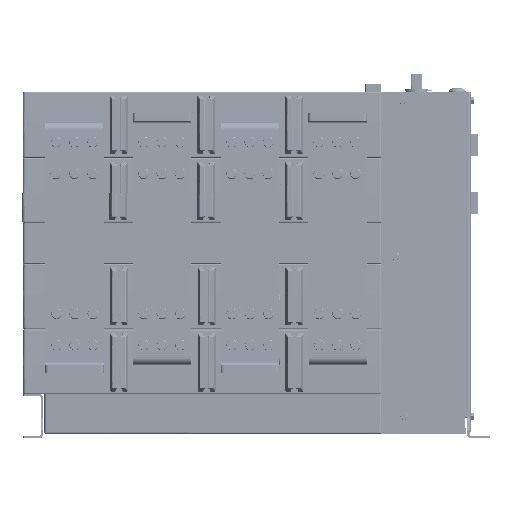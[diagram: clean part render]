
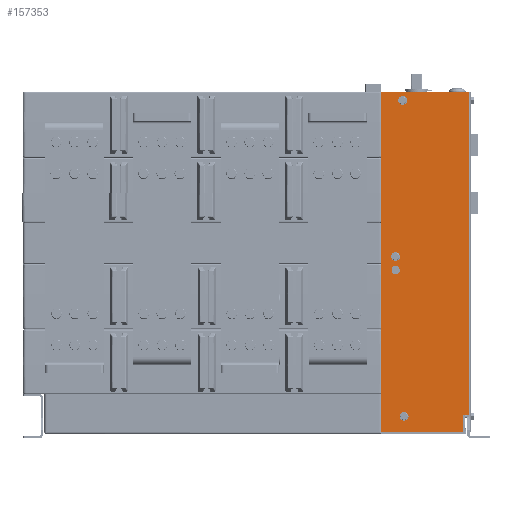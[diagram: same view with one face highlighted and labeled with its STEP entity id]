
A CAD part, left-side view. The second image highlights one B-rep face of the part: STEP entity #157353.
In plain terms, the highlighted planar face has unit normal (-1, 0, 0) as drawn and (1, 0, 0) by its records, which use the part's own axes.
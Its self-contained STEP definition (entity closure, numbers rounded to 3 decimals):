
#155897=DIRECTION('',(0.,0.,-1.));
#155898=VECTOR('',#155897,441.159);
#155899=CARTESIAN_POINT('',(101.,2.,296.659));
#155900=LINE('',#155899,#155898);
#155922=DIRECTION('',(0.,0.,1.));
#155923=VECTOR('',#155922,24.);
#155924=CARTESIAN_POINT('',(101.,10.,296.659));
#155925=LINE('',#155924,#155923);
#155926=DIRECTION('',(0.,-1.,0.));
#155927=VECTOR('',#155926,120.);
#155928=CARTESIAN_POINT('',(101.,122.,-144.5));
#155929=LINE('',#155928,#155927);
#155930=CARTESIAN_POINT('',(101.,93.,-133.5));
#155931=DIRECTION('',(1.,0.,0.));
#155932=DIRECTION('',(0.,0.,-1.));
#155933=AXIS2_PLACEMENT_3D('',#155930,#155931,#155932);
#155935=CARTESIAN_POINT('',(101.,93.,-133.5));
#155936=DIRECTION('',(1.,0.,0.));
#155937=DIRECTION('',(0.,0.,1.));
#155938=AXIS2_PLACEMENT_3D('',#155935,#155936,#155937);
#155940=CARTESIAN_POINT('',(101.,102.642,80.068));
#155941=DIRECTION('',(1.,0.,0.));
#155942=DIRECTION('',(0.,0.,-1.));
#155943=AXIS2_PLACEMENT_3D('',#155940,#155941,#155942);
#155945=CARTESIAN_POINT('',(101.,102.642,80.068));
#155946=DIRECTION('',(1.,0.,0.));
#155947=DIRECTION('',(0.,0.,1.));
#155948=AXIS2_PLACEMENT_3D('',#155945,#155946,#155947);
#155950=CARTESIAN_POINT('',(101.,102.642,98.56));
#155951=DIRECTION('',(1.,0.,0.));
#155952=DIRECTION('',(0.,-1.,0.));
#155953=AXIS2_PLACEMENT_3D('',#155950,#155951,#155952);
#155955=CARTESIAN_POINT('',(101.,102.642,98.56));
#155956=DIRECTION('',(1.,0.,0.));
#155957=DIRECTION('',(0.,1.,0.));
#155958=AXIS2_PLACEMENT_3D('',#155955,#155956,#155957);
#155960=CARTESIAN_POINT('',(101.,91.,298.659));
#155961=DIRECTION('',(1.,0.,0.));
#155962=DIRECTION('',(0.,1.,0.));
#155963=AXIS2_PLACEMENT_3D('',#155960,#155961,#155962);
#155965=CARTESIAN_POINT('',(101.,91.,298.659));
#155966=DIRECTION('',(1.,0.,0.));
#155967=DIRECTION('',(0.,-1.,0.));
#155968=AXIS2_PLACEMENT_3D('',#155965,#155966,#155967);
#155974=DIRECTION('',(0.,-1.,0.));
#155975=VECTOR('',#155974,8.);
#155976=CARTESIAN_POINT('',(101.,10.,296.659));
#155977=LINE('',#155976,#155975);
#156265=DIRECTION('',(0.,0.,1.));
#156266=VECTOR('',#156265,465.159);
#156267=CARTESIAN_POINT('',(101.,122.,-144.5));
#156268=LINE('',#156267,#156266);
#156277=DIRECTION('',(0.,-1.,0.));
#156278=VECTOR('',#156277,112.);
#156279=CARTESIAN_POINT('',(101.,122.,320.659));
#156280=LINE('',#156279,#156278);
#156903=CARTESIAN_POINT('',(101.,2.,-144.5));
#156904=VERTEX_POINT('',#156903);
#156907=CARTESIAN_POINT('',(101.,2.,296.659));
#156908=VERTEX_POINT('',#156907);
#156909=CARTESIAN_POINT('',(101.,122.,-144.5));
#156910=VERTEX_POINT('',#156909);
#156917=CARTESIAN_POINT('',(101.,10.,296.659));
#156918=VERTEX_POINT('',#156917);
#156919=CARTESIAN_POINT('',(101.,10.,320.659));
#156920=VERTEX_POINT('',#156919);
#156921=CARTESIAN_POINT('',(101.,122.,320.659));
#156922=VERTEX_POINT('',#156921);
#156923=CARTESIAN_POINT('',(101.,93.,-137.));
#156924=CARTESIAN_POINT('',(101.,93.,-130.));
#156925=VERTEX_POINT('',#156923);
#156926=VERTEX_POINT('',#156924);
#156927=CARTESIAN_POINT('',(101.,102.642,76.568));
#156928=CARTESIAN_POINT('',(101.,102.642,83.568));
#156929=VERTEX_POINT('',#156927);
#156930=VERTEX_POINT('',#156928);
#156931=CARTESIAN_POINT('',(101.,96.952,98.56));
#156932=CARTESIAN_POINT('',(101.,108.332,98.56));
#156933=VERTEX_POINT('',#156931);
#156934=VERTEX_POINT('',#156932);
#156935=CARTESIAN_POINT('',(101.,94.5,298.659));
#156936=CARTESIAN_POINT('',(101.,87.5,298.659));
#156937=VERTEX_POINT('',#156935);
#156938=VERTEX_POINT('',#156936);
#157312=CARTESIAN_POINT('',(101.,0.,144.5));
#157313=DIRECTION('',(1.,0.,0.));
#157314=DIRECTION('',(0.,0.,-1.));
#157315=AXIS2_PLACEMENT_3D('',#157312,#157313,#157314);
#157316=PLANE('',#157315);
#157317=ORIENTED_EDGE('',*,*,#157287,.F.);
#157319=ORIENTED_EDGE('',*,*,#157318,.F.);
#157321=ORIENTED_EDGE('',*,*,#157320,.T.);
#157323=ORIENTED_EDGE('',*,*,#157322,.F.);
#157325=ORIENTED_EDGE('',*,*,#157324,.F.);
#157326=ORIENTED_EDGE('',*,*,#157298,.T.);
#157327=EDGE_LOOP('',(#157317,#157319,#157321,#157323,#157325,#157326));
#157328=FACE_OUTER_BOUND('',#157327,.F.);
#157330=ORIENTED_EDGE('',*,*,#157329,.T.);
#157332=ORIENTED_EDGE('',*,*,#157331,.T.);
#157333=EDGE_LOOP('',(#157330,#157332));
#157334=FACE_BOUND('',#157333,.F.);
#157336=ORIENTED_EDGE('',*,*,#157335,.T.);
#157338=ORIENTED_EDGE('',*,*,#157337,.T.);
#157339=EDGE_LOOP('',(#157336,#157338));
#157340=FACE_BOUND('',#157339,.F.);
#157342=ORIENTED_EDGE('',*,*,#157341,.T.);
#157344=ORIENTED_EDGE('',*,*,#157343,.T.);
#157345=EDGE_LOOP('',(#157342,#157344));
#157346=FACE_BOUND('',#157345,.F.);
#157348=ORIENTED_EDGE('',*,*,#157347,.T.);
#157350=ORIENTED_EDGE('',*,*,#157349,.T.);
#157351=EDGE_LOOP('',(#157348,#157350));
#157352=FACE_BOUND('',#157351,.F.);
#155934=CIRCLE('',#155933,3.5);
#155939=CIRCLE('',#155938,3.5);
#155944=CIRCLE('',#155943,3.5);
#155949=CIRCLE('',#155948,3.5);
#155954=CIRCLE('',#155953,5.69);
#155959=CIRCLE('',#155958,5.69);
#155964=CIRCLE('',#155963,3.5);
#155969=CIRCLE('',#155968,3.5);
#157287=EDGE_CURVE('',#156908,#156904,#155900,.T.);
#157298=EDGE_CURVE('',#156910,#156904,#155929,.T.);
#157318=EDGE_CURVE('',#156918,#156908,#155977,.T.);
#157320=EDGE_CURVE('',#156918,#156920,#155925,.T.);
#157322=EDGE_CURVE('',#156922,#156920,#156280,.T.);
#157324=EDGE_CURVE('',#156910,#156922,#156268,.T.);
#157329=EDGE_CURVE('',#156925,#156926,#155934,.T.);
#157331=EDGE_CURVE('',#156926,#156925,#155939,.T.);
#157335=EDGE_CURVE('',#156929,#156930,#155944,.T.);
#157337=EDGE_CURVE('',#156930,#156929,#155949,.T.);
#157341=EDGE_CURVE('',#156933,#156934,#155954,.T.);
#157343=EDGE_CURVE('',#156934,#156933,#155959,.T.);
#157347=EDGE_CURVE('',#156937,#156938,#155964,.T.);
#157349=EDGE_CURVE('',#156938,#156937,#155969,.T.);
#157353=ADVANCED_FACE('',(#157328,#157334,#157340,#157346,#157352),#157316,.T.);
